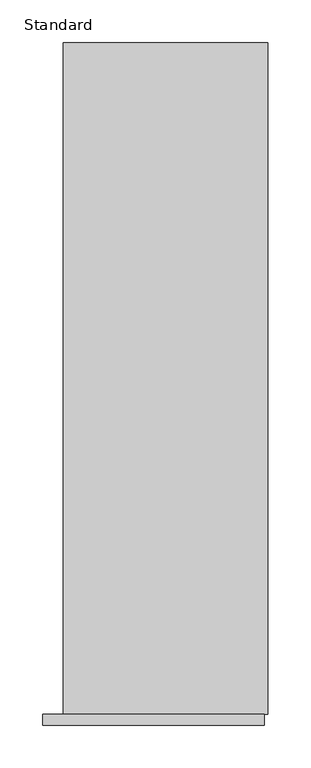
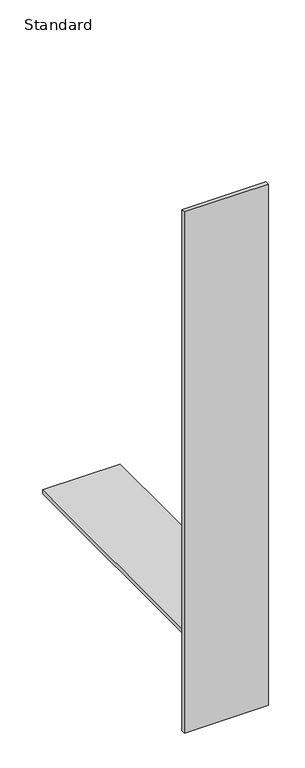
"""IFC4 building model written with IfcOpenShell, lengths in millimetres: furniture geometry, X_Partition-Compact Laminate-Duracube-Shower Seat & Division : Standard."""

from ifc_helpers import new_model, si_unit, frame, origin, place, context, project, spatial, polyline, outline, extrude, source, transform, mapped, element, save


def standard_65739662(model_context):
    return source(origin(), model_context, "Body", "SweptSolid", [
        extrude(outline(polyline([(174.7003264, 0.0), (-85.2996736, 0.0), (-85.2996736, 13.0), (174.7003264, 13.0), (174.7003264, 0.0)])), frame((0.0, 0.0, 200.0), z_axis=(0.0, 0.0, 1.0), x_axis=(1.0, 0.0, 0.0)), (0.0, 0.0, 1.0), 1700.0),
        extrude(outline(polyline([(-61.2996736, 800.0), (178.7003264, 800.0), (178.7003264, 13.0), (-61.2996736, 13.0), (-61.2996736, 800.0)])), frame((0.0, 0.0, 487.0), z_axis=(0.0, 0.0, 1.0), x_axis=(1.0, 0.0, 0.0)), (0.0, 0.0, 1.0), 13.0),
    ])


if __name__ == "__main__":
    model = new_model("IFC4")
    model_context = context("Model", 3, world=origin())
    ifc_project = project(units=[si_unit("LENGTHUNIT", "METRE", prefix="MILLI")], contexts=[model_context])
    site = spatial("IfcSite", under=ifc_project)
    building = spatial("IfcBuilding", under=site)
    placement = place(None, origin())
    standard_shape = standard_65739662(model_context)
    element("IfcFurniture", 1, ObjectType="X_Partition-Compact Laminate-Duracube-Shower Seat & Division : Standard", at=placement, inside=building, context=model_context, shape_type="MappedRepresentation", body=[
        mapped(standard_shape, transform((0.0, 0.0, 0.0), x_axis=(1.0, 0.0, 0.0), y_axis=(0.0, 1.0, 0.0), z_axis=(0.0, 0.0, 1.0))),
    ])
    save(model, "model.ifc")
